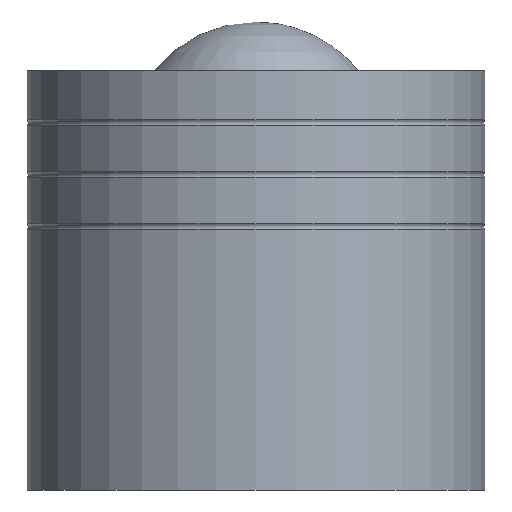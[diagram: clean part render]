
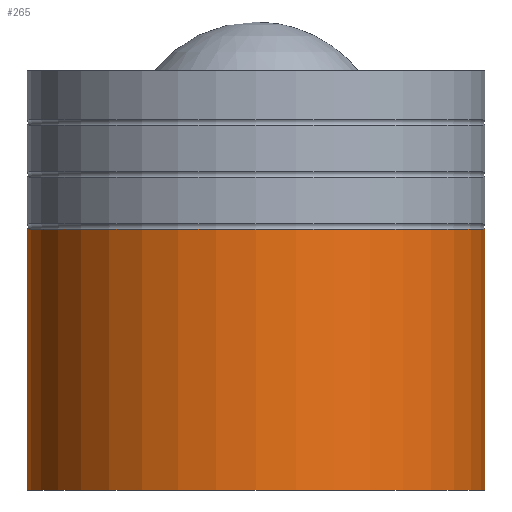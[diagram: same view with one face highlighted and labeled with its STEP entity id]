
A CAD part, front view. The second image highlights one B-rep face of the part: STEP entity #265.
In plain terms, the highlighted cylindrical face has radius 22 mm (diameter 44 mm), a full revolution.
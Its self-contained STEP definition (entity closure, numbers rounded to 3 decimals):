
#45=FACE_BOUND('',#120,.T.);
#57=CYLINDRICAL_SURFACE('',#310,22.);
#77=FACE_OUTER_BOUND('',#119,.T.);
#119=EDGE_LOOP('',(#234));
#120=EDGE_LOOP('',(#235));
#147=CIRCLE('',#309,22.);
#148=CIRCLE('',#311,22.);
#170=VERTEX_POINT('',#471);
#171=VERTEX_POINT('',#474);
#193=EDGE_CURVE('',#170,#170,#147,.T.);
#194=EDGE_CURVE('',#171,#171,#148,.T.);
#234=ORIENTED_EDGE('',*,*,#193,.T.);
#235=ORIENTED_EDGE('',*,*,#194,.F.);
#265=ADVANCED_FACE('',(#77,#45),#57,.T.);
#309=AXIS2_PLACEMENT_3D('',#472,#394,#395);
#310=AXIS2_PLACEMENT_3D('',#473,#396,#397);
#311=AXIS2_PLACEMENT_3D('',#475,#398,#399);
#394=DIRECTION('center_axis',(0.,0.,-1.));
#395=DIRECTION('ref_axis',(1.,0.,0.));
#396=DIRECTION('center_axis',(0.,0.,-1.));
#397=DIRECTION('ref_axis',(0.,1.,0.));
#398=DIRECTION('center_axis',(0.,0.,-1.));
#399=DIRECTION('ref_axis',(1.,0.,0.));
#471=CARTESIAN_POINT('',(0.,22.,25.035));
#472=CARTESIAN_POINT('Origin',(0.,0.,25.035));
#473=CARTESIAN_POINT('Origin',(0.,0.,12.518));
#474=CARTESIAN_POINT('',(0.,22.,0.));
#475=CARTESIAN_POINT('Origin',(0.,0.,0.));
